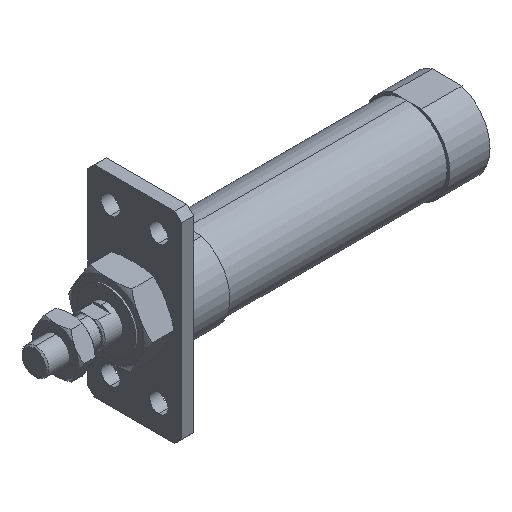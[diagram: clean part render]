
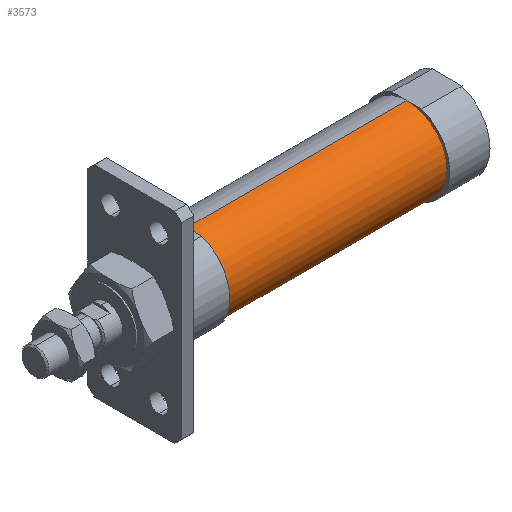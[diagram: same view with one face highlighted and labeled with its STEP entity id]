
A CAD part, isometric view. The second image highlights one B-rep face of the part: STEP entity #3573.
In plain terms, the highlighted cylindrical face has radius 15 mm (diameter 30 mm), a partial arc.
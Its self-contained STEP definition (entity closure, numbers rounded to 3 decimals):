
#111 = CARTESIAN_POINT ( 'NONE',  ( -6.469, 0., -15. ) ) ;
#174 = VERTEX_POINT ( 'NONE', #2510 ) ;
#365 = CARTESIAN_POINT ( 'NONE',  ( 139., 0., -15. ) ) ;
#377 = DIRECTION ( 'NONE',  ( -1., 0., 0. ) ) ;
#433 = FACE_OUTER_BOUND ( 'NONE', #2316, .T. ) ;
#510 = VERTEX_POINT ( 'NONE', #3366 ) ;
#544 = VECTOR ( 'NONE', #2048, 1000. ) ;
#600 = LINE ( 'NONE', #111, #2387 ) ;
#633 = AXIS2_PLACEMENT_3D ( 'NONE', #975, #1290, #3752 ) ;
#818 = AXIS2_PLACEMENT_3D ( 'NONE', #2758, #377, #2187 ) ;
#975 = CARTESIAN_POINT ( 'NONE',  ( 57., 0., 0. ) ) ;
#1197 = ORIENTED_EDGE ( 'NONE', *, *, #1675, .F. ) ;
#1290 = DIRECTION ( 'NONE',  ( -1., 0., 0. ) ) ;
#1387 = DIRECTION ( 'NONE',  ( -1., 0., 0. ) ) ;
#1405 = DIRECTION ( 'NONE',  ( -1., 0., 0. ) ) ;
#1416 = DIRECTION ( 'NONE',  ( 0., 0., 1. ) ) ;
#1439 = EDGE_CURVE ( 'NONE', #510, #2627, #2531, .T. ) ;
#1675 = EDGE_CURVE ( 'NONE', #3607, #510, #600, .T. ) ;
#1816 = EDGE_CURVE ( 'NONE', #174, #2627, #2025, .T. ) ;
#1981 = ORIENTED_EDGE ( 'NONE', *, *, #3845, .T. ) ;
#2025 = LINE ( 'NONE', #3614, #544 ) ;
#2048 = DIRECTION ( 'NONE',  ( -1., 0., 0. ) ) ;
#2187 = DIRECTION ( 'NONE',  ( 0., 0., 1. ) ) ;
#2316 = EDGE_LOOP ( 'NONE', ( #1197, #1981, #3543, #3805 ) ) ;
#2330 = CIRCLE ( 'NONE', #3392, 15. ) ;
#2383 = CARTESIAN_POINT ( 'NONE',  ( 57., 0., 15. ) ) ;
#2387 = VECTOR ( 'NONE', #1387, 1000. ) ;
#2510 = CARTESIAN_POINT ( 'NONE',  ( 139., 0., 15. ) ) ;
#2531 = CIRCLE ( 'NONE', #633, 15. ) ;
#2627 = VERTEX_POINT ( 'NONE', #2383 ) ;
#2758 = CARTESIAN_POINT ( 'NONE',  ( -6.469, 0., 0. ) ) ;
#3241 = CYLINDRICAL_SURFACE ( 'NONE', #818, 15. ) ;
#3366 = CARTESIAN_POINT ( 'NONE',  ( 57., 0., -15. ) ) ;
#3392 = AXIS2_PLACEMENT_3D ( 'NONE', #3839, #1405, #1416 ) ;
#3543 = ORIENTED_EDGE ( 'NONE', *, *, #1816, .T. ) ;
#3573 = ADVANCED_FACE ( 'NONE', ( #433 ), #3241, .T. ) ;
#3607 = VERTEX_POINT ( 'NONE', #365 ) ;
#3614 = CARTESIAN_POINT ( 'NONE',  ( -6.469, 0., 15. ) ) ;
#3752 = DIRECTION ( 'NONE',  ( 0., 0., 1. ) ) ;
#3805 = ORIENTED_EDGE ( 'NONE', *, *, #1439, .F. ) ;
#3839 = CARTESIAN_POINT ( 'NONE',  ( 139., 0., 0. ) ) ;
#3845 = EDGE_CURVE ( 'NONE', #3607, #174, #2330, .T. ) ;
